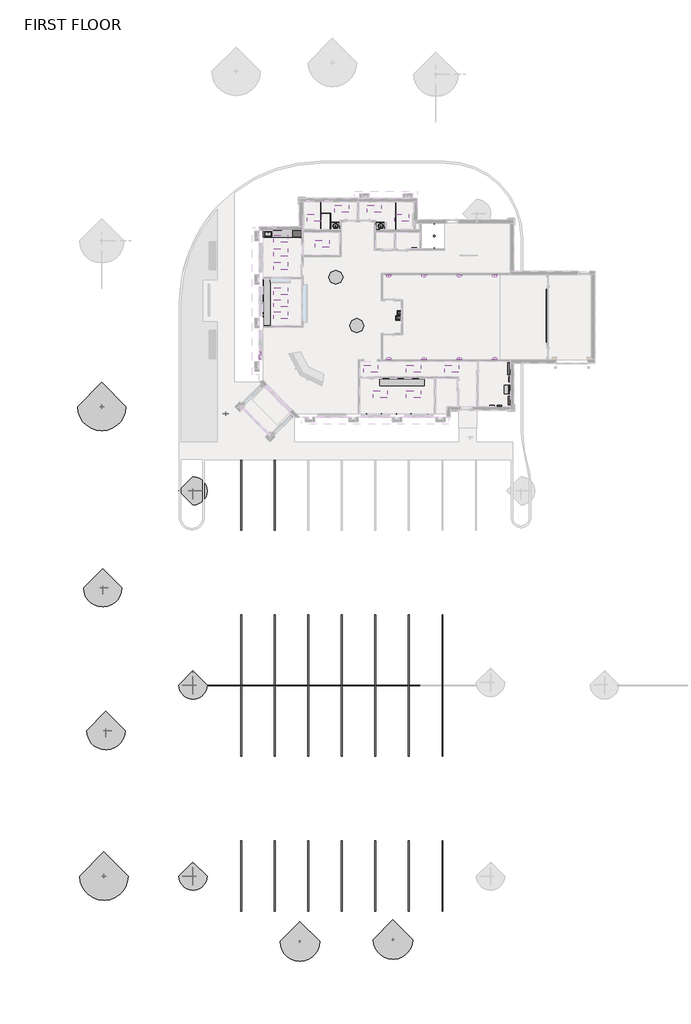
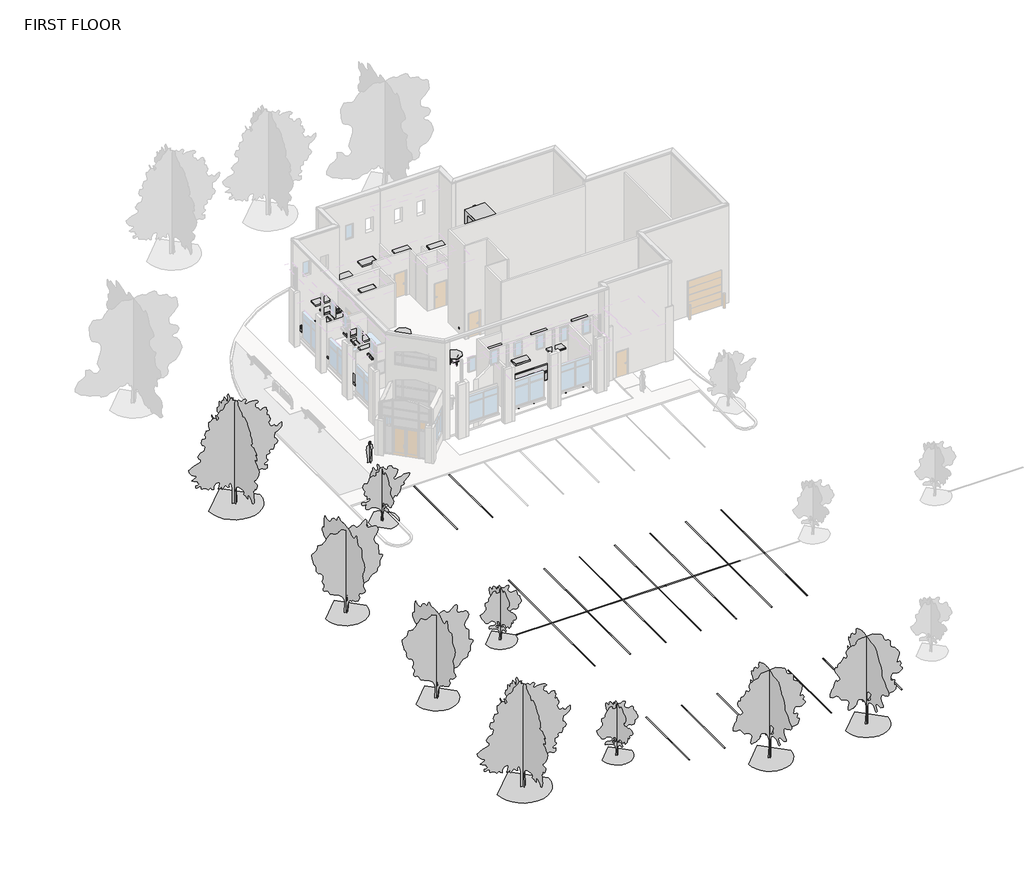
# One storey, part 6 of 7: 35 geographic elements, 30 proxies, 24 light fixtures, 12 furniture elements, 4 flow terminals.
"""IFC4 building model written with IfcOpenShell, lengths in millimetres."""

from ifc_helpers import new_model, si_unit, origin, place, context, project, spatial, transform, mapped, element, save
from components import specialty_equipment_692675cb, proxy_75_kva_46ae6ed2, duplex_receptacle_gfci_10251bba, elevator_electric_2000_lbs_4744baa0, lighting_and_appliance_panelboard_208v_mcb_surface_300_a_4e6e7a5c, lighting_and_appliance_panelboard_208v_mlo_surface_100_a_d3afedde, lighting_and_appliance_panelboard_480v_mlo_surface_225_a_cb251ed6, lighting_and_appliance_panelboard_480v_mlo_surface_400_a_c317ceb7, lighting_and_appliance_panelboard_480v_mlo_surface_60_a_df9055c8, projection_screen_with_parametric_screen_4857_projection_ff3bfefe, rpc_male_28878092, proxy_52aa913c, proxy_b54b38c5, proxy_e74a4aad, proxy_a965dae9, flow_terminal_8a1848b0, flow_terminal_50ef5554, flow_terminal_951b6bfb, furniture_81c1c4d7, furniture_c0b19bce, furniture_e9891702, furniture_2ac01a90, furniture_69c8b165, furniture_e487f748, furniture_dc82221e, pavement_stripe_20_9c478066, pavement_stripe_20_eeeff9bc, rpc_tree_deciduous_honey_locust_25_cc46a1f1, rpc_tree_deciduous_japanese_cherry_15_e499737d, rpc_tree_deciduous_largetooth_aspen_25_f6cd7aa4, rpc_tree_deciduous_red_maple_30_cba750cc, sconce_light_uplight_100w_120v_3f244261, troffer_light_2x4_parabolic_2_x4_2_lamp_120v_ca384779

model = new_model("IFC4")

# Units and contexts
model_context = context("Model", 3, world=origin())
ifc_project = project(units=[si_unit("LENGTHUNIT", "METRE", prefix="MILLI")], contexts=[model_context])

# Site, building, storey
site = spatial("IfcSite", under=ifc_project)
building = spatial("IfcBuilding", under=site)
storey = spatial("IfcBuildingStorey", under=building, Name="FIRST FLOOR", Elevation=30480.0)

# Proxies
placement = place(None, origin())
specialty_equipment_shape = specialty_equipment_692675cb(model_context)
element("IfcBuildingElementProxy", 1, Name="Refridgerator_with_freezer_on_top_198 : Refridgerator_with_freezer_on_top_198", ObjectType="Refridgerator_with_freezer_on_top_198 : Refridgerator_with_freezer_on_top_198", at=placement, inside=storey, context=model_context, shape_type="MappedRepresentation", body=[
    mapped(specialty_equipment_shape, transform((-13951.060253, 9896.6010405, 30480.0), x_axis=(0.0, -1.0000000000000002, 0.0), y_axis=(1.0000000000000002, 0.0, 0.0), z_axis=(0.0, 0.0, 1.0))),
])
proxy_75_kva_shape = proxy_75_kva_46ae6ed2(model_context)
element("IfcBuildingElementProxy", 2, Name="Dry Type Transformer - 480-208Y120 - NEMA Type 2 : 75 kVA", ObjectType="Dry Type Transformer - 480-208Y120 - NEMA Type 2 : 75 kVA", at=placement, inside=storey, context=model_context, shape_type="MappedRepresentation", body=[
    mapped(proxy_75_kva_shape, transform((4431.6488819, -3870.1989595, 30480.0), x_axis=(0.0, -1.0, 0.0), y_axis=(1.0, 0.0, 0.0), z_axis=(0.0, 0.0, 1.0))),
])
duplex_receptacle_gfci_shape = duplex_receptacle_gfci_10251bba(model_context)
element("IfcBuildingElementProxy", 3, Name="Duplex Receptacle : Standard", ObjectType="Duplex Receptacle : Standard", at=placement, inside=storey, context=model_context, shape_type="MappedRepresentation", body=[
    mapped(duplex_receptacle_gfci_shape, transform((-7553.455573, -5952.9989595, 30937.2), x_axis=(-1.0, 0.0, 0.0), y_axis=(0.0, 0.0, 1.0), z_axis=(0.0, 1.0, 0.0))),
])
element("IfcBuildingElementProxy", 4, Name="Duplex Receptacle : Standard", ObjectType="Duplex Receptacle : Standard", at=placement, inside=storey, context=model_context, shape_type="MappedRepresentation", body=[
    mapped(duplex_receptacle_gfci_shape, transform((-6283.455573, -5952.9989595, 30937.2), x_axis=(-1.0, 0.0, 0.0), y_axis=(0.0, 0.0, 1.0), z_axis=(0.0, 1.0, 0.0))),
])
element("IfcBuildingElementProxy", 5, Name="Duplex Receptacle : Standard", ObjectType="Duplex Receptacle : Standard", at=placement, inside=storey, context=model_context, shape_type="MappedRepresentation", body=[
    mapped(duplex_receptacle_gfci_shape, transform((-4972.180573, -5952.9989595, 30937.2), x_axis=(-1.0, 0.0, 0.0), y_axis=(0.0, 0.0, 1.0), z_axis=(0.0, 1.0, 0.0))),
])
element("IfcBuildingElementProxy", 6, Name="Duplex Receptacle : Standard", ObjectType="Duplex Receptacle : Standard", at=placement, inside=storey, context=model_context, shape_type="MappedRepresentation", body=[
    mapped(duplex_receptacle_gfci_shape, transform((-3718.055573, -5952.9989595, 30937.2), x_axis=(-1.0, 0.0, 0.0), y_axis=(0.0, 0.0, 1.0), z_axis=(0.0, 1.0, 0.0))),
])
element("IfcBuildingElementProxy", 7, Name="Duplex Receptacle : Standard", ObjectType="Duplex Receptacle : Standard", at=placement, inside=storey, context=model_context, shape_type="MappedRepresentation", body=[
    mapped(duplex_receptacle_gfci_shape, transform((-2295.660653, -5952.9989595, 30937.2), x_axis=(-1.0, 0.0, 0.0), y_axis=(0.0, 0.0, 1.0), z_axis=(0.0, 1.0, 0.0))),
])
element("IfcBuildingElementProxy", 8, Name="Duplex Receptacle : Standard", ObjectType="Duplex Receptacle : Standard", at=placement, inside=storey, context=model_context, shape_type="MappedRepresentation", body=[
    mapped(duplex_receptacle_gfci_shape, transform((-1736.860653, -4403.5989595, 30937.2), x_axis=(0.0, -1.0, 0.0), y_axis=(0.0, 0.0, 1.0), z_axis=(-1.0, 0.0, 0.0))),
])
element("IfcBuildingElementProxy", 9, Name="Duplex Receptacle : Standard", ObjectType="Duplex Receptacle : Standard", at=placement, inside=storey, context=model_context, shape_type="MappedRepresentation", body=[
    mapped(duplex_receptacle_gfci_shape, transform((-3210.060653, -2917.6989595, 30937.2), x_axis=(1.0, 0.0, 0.0), y_axis=(0.0, 0.0, 1.0), z_axis=(0.0, -1.0, 0.0))),
])
element("IfcBuildingElementProxy", 10, Name="Duplex Receptacle : Standard", ObjectType="Duplex Receptacle : Standard", at=placement, inside=storey, context=model_context, shape_type="MappedRepresentation", body=[
    mapped(duplex_receptacle_gfci_shape, transform((-5772.260253, -2917.6989595, 30937.2), x_axis=(1.0, 0.0, 0.0), y_axis=(0.0, 0.0, 1.0), z_axis=(0.0, -1.0, 0.0))),
])
element("IfcBuildingElementProxy", 11, Name="Duplex Receptacle : Standard", ObjectType="Duplex Receptacle : Standard", at=placement, inside=storey, context=model_context, shape_type="MappedRepresentation", body=[
    mapped(duplex_receptacle_gfci_shape, transform((-6302.485253, 422.4010405, 30937.2), x_axis=(0.0, -1.0, 0.0), y_axis=(0.0, 0.0, 1.0), z_axis=(-1.0, 0.0, 0.0))),
])
element("IfcBuildingElementProxy", 12, Name="Duplex Receptacle : Standard", ObjectType="Duplex Receptacle : Standard", at=placement, inside=storey, context=model_context, shape_type="MappedRepresentation", body=[
    mapped(duplex_receptacle_gfci_shape, transform((-6302.485253, 4664.2010405, 30937.2), x_axis=(0.0, -1.0, 0.0), y_axis=(0.0, 0.0, 1.0), z_axis=(-1.0, 0.0, 0.0))),
])
element("IfcBuildingElementProxy", 13, Name="Duplex Receptacle : Standard", ObjectType="Duplex Receptacle : Standard", at=placement, inside=storey, context=model_context, shape_type="MappedRepresentation", body=[
    mapped(duplex_receptacle_gfci_shape, transform((-10830.035253, 7616.9510405, 30937.2), x_axis=(1.0, 0.0, 0.0), y_axis=(0.0, 0.0, 1.0), z_axis=(0.0, -1.0, 0.0))),
])
element("IfcBuildingElementProxy", 14, Name="Duplex Receptacle : Standard", ObjectType="Duplex Receptacle : Standard", at=placement, inside=storey, context=model_context, shape_type="MappedRepresentation", body=[
    mapped(duplex_receptacle_gfci_shape, transform((-13697.060253, 1644.7760405, 30937.2), x_axis=(-1.0, 0.0, 0.0), y_axis=(0.0, 0.0, 1.0), z_axis=(0.0, 1.0, 0.0))),
])
element("IfcBuildingElementProxy", 15, Name="Duplex Receptacle : Standard", ObjectType="Duplex Receptacle : Standard", at=placement, inside=storey, context=model_context, shape_type="MappedRepresentation", body=[
    mapped(duplex_receptacle_gfci_shape, transform((-16113.235253, 1644.7760405, 30937.2), x_axis=(1.0, 0.0, 0.0), y_axis=(0.0, 0.0, 1.0), z_axis=(0.0, -1.0, 0.0))),
])
element("IfcBuildingElementProxy", 16, Name="Duplex Receptacle : Standard", ObjectType="Duplex Receptacle : Standard", at=placement, inside=storey, context=model_context, shape_type="MappedRepresentation", body=[
    mapped(duplex_receptacle_gfci_shape, transform((-16500.585253, 3546.5908805, 30937.2), x_axis=(0.0, 1.0, 0.0), y_axis=(0.0, 0.0, 1.0), z_axis=(1.0, 0.0, 0.0))),
])
element("IfcBuildingElementProxy", 17, Name="Duplex Receptacle : Standard", ObjectType="Duplex Receptacle : Standard", at=placement, inside=storey, context=model_context, shape_type="MappedRepresentation", body=[
    mapped(duplex_receptacle_gfci_shape, transform((-13468.460253, 5708.7760405, 30937.2), x_axis=(1.0, 0.0, 0.0), y_axis=(0.0, 0.0, 1.0), z_axis=(0.0, -1.0, 0.0))),
])
elevator_electric_2000_lbs_shape = elevator_electric_2000_lbs_4744baa0(model_context)
element("IfcBuildingElementProxy", 18, Name="Elevator-Electric : 2000 lbs", ObjectType="Elevator-Electric : 2000 lbs", at=placement, inside=storey, context=model_context, shape_type="MappedRepresentation", body=[
    mapped(elevator_electric_2000_lbs_shape, transform((-1688.8570793, 9381.154044, 30480.0), x_axis=(0.0, 1.0, 0.0), y_axis=(-1.0, 0.0, 0.0), z_axis=(0.0, 0.0, 1.0))),
])
lighting_and_appliance_panelboard_208v_mcb_surface_300_a_shape = lighting_and_appliance_panelboard_208v_mcb_surface_300_a_4e6e7a5c(model_context)
element("IfcBuildingElementProxy", 19, Name="Lighting and Appliance Panelboard - 208V MCB - Surface : 300 A", ObjectType="Lighting and Appliance Panelboard - 208V MCB - Surface : 300 A", at=placement, inside=storey, context=model_context, shape_type="MappedRepresentation", body=[
    mapped(lighting_and_appliance_panelboard_208v_mcb_surface_300_a_shape, transform((4816.364747, -4714.7394889, 31935.3056703), x_axis=(0.0, -1.0, 0.0), y_axis=(0.0, 0.0, 1.0), z_axis=(-1.0, 0.0, 0.0))),
])
lighting_and_appliance_panelboard_208v_mlo_surface_100_a_shape = lighting_and_appliance_panelboard_208v_mlo_surface_100_a_d3afedde(model_context)
element("IfcBuildingElementProxy", 20, Name="Lighting and Appliance Panelboard - 208V MLO - Surface : 100 A", ObjectType="Lighting and Appliance Panelboard - 208V MLO - Surface : 100 A", at=placement, inside=storey, context=model_context, shape_type="MappedRepresentation", body=[
    mapped(lighting_and_appliance_panelboard_208v_mlo_surface_100_a_shape, transform((3898.789747, -5343.3989595, 31699.2), x_axis=(-1.0, 0.0, 0.0), y_axis=(0.0, 0.0, 1.0), z_axis=(0.0, 1.0, 0.0))),
])
element("IfcBuildingElementProxy", 21, Name="Lighting and Appliance Panelboard - 208V MLO - Surface : 100 A", ObjectType="Lighting and Appliance Panelboard - 208V MLO - Surface : 100 A", at=placement, inside=storey, context=model_context, shape_type="MappedRepresentation", body=[
    mapped(lighting_and_appliance_panelboard_208v_mlo_surface_100_a_shape, transform((3238.389747, -5343.3989595, 31699.2), x_axis=(-1.0, 0.0, 0.0), y_axis=(0.0, 0.0, 1.0), z_axis=(0.0, 1.0, 0.0))),
])
lighting_and_appliance_panelboard_480v_mlo_surface_225_a_shape = lighting_and_appliance_panelboard_480v_mlo_surface_225_a_cb251ed6(model_context)
element("IfcBuildingElementProxy", 22, Name="Lighting and Appliance Panelboard - 480V MLO - Surface : 225 A", ObjectType="Lighting and Appliance Panelboard - 480V MLO - Surface : 225 A", at=placement, inside=storey, context=model_context, shape_type="MappedRepresentation", body=[
    mapped(lighting_and_appliance_panelboard_480v_mlo_surface_225_a_shape, transform((4816.364747, -2981.1989595, 31325.3274047), x_axis=(0.0, -1.0, 0.0), y_axis=(0.0, 0.0, 1.0), z_axis=(-1.0, 0.0, 0.0))),
])
lighting_and_appliance_panelboard_480v_mlo_surface_400_a_shape = lighting_and_appliance_panelboard_480v_mlo_surface_400_a_c317ceb7(model_context)
element("IfcBuildingElementProxy", 23, Name="Lighting and Appliance Panelboard - 480V MLO - Surface : 400 A", ObjectType="Lighting and Appliance Panelboard - 480V MLO - Surface : 400 A", at=placement, inside=storey, context=model_context, shape_type="MappedRepresentation", body=[
    mapped(lighting_and_appliance_panelboard_480v_mlo_surface_400_a_shape, transform((4816.364747, -2069.9739595, 31325.3274047), x_axis=(0.0, -1.0, 0.0), y_axis=(0.0, 0.0, 1.0), z_axis=(-1.0, 0.0, 0.0))),
])
lighting_and_appliance_panelboard_480v_mlo_surface_60_a_shape = lighting_and_appliance_panelboard_480v_mlo_surface_60_a_df9055c8(model_context)
element("IfcBuildingElementProxy", 24, Name="Lighting and Appliance Panelboard - 480V MLO - Surface : 60 A", ObjectType="Lighting and Appliance Panelboard - 480V MLO - Surface : 60 A", at=placement, inside=storey, context=model_context, shape_type="MappedRepresentation", body=[
    mapped(lighting_and_appliance_panelboard_480v_mlo_surface_60_a_shape, transform((-3464.035253, 8271.0010405, 31325.3274047), x_axis=(-1.0, 0.0, 0.0), y_axis=(0.0, 0.0, 1.0), z_axis=(0.0, 1.0, 0.0))),
])
projection_screen_with_parametric_screen_4857_projection_shape = projection_screen_with_parametric_screen_4857_projection_ff3bfefe(model_context)
element("IfcBuildingElementProxy", 25, Name="Projection_Screen_with_parametric_screen_4857 : Projection_Screen_with_parametric_screen_4857", ObjectType="Projection_Screen_with_parametric_screen_4857 : Projection_Screen_with_parametric_screen_4857", at=placement, inside=storey, context=model_context, shape_type="MappedRepresentation", body=[
    mapped(projection_screen_with_parametric_screen_4857_projection_shape, transform((7889.4315444, 2505.2010405, 30632.4), x_axis=(0.0, 1.0, 0.0), y_axis=(-1.0, 0.0, 0.0), z_axis=(0.0, 0.0, 1.0))),
])
rpc_male_shape = rpc_male_28878092(model_context)
element("IfcBuildingElementProxy", 26, Name="RPC Male : Dwayne", ObjectType="RPC Male : Dwayne", at=placement, inside=storey, context=model_context, shape_type="MappedRepresentation", body=[
    mapped(rpc_male_shape, transform((-19742.3830365, -5937.1239595, 30480.0), x_axis=(1.0, 0.0, 0.0), y_axis=(0.0, 1.0, 0.0), z_axis=(0.0, 0.0, 1.0))),
])
proxy_shape = proxy_52aa913c(model_context)
element("IfcBuildingElementProxy", 27, Name="Stone Sill : 2' x 8\" x 3 5/8\" Deep", ObjectType="Stone Sill : 2' x 8\" x 3 5/8\" Deep", at=placement, inside=storey, context=model_context, shape_type="MappedRepresentation", body=[
    mapped(proxy_shape, transform((-16673.80834, -1538.0040395, 33419.5320312), x_axis=(0.0, 1.0, 0.0), y_axis=(-1.0, 0.0, 0.0), z_axis=(0.0, 0.0, 1.0))),
])
proxy_2_shape = proxy_b54b38c5(model_context)
element("IfcBuildingElementProxy", 28, Name="Toilet Stall-Accessible-Side2-3D : 60\" x 96\" Clear", ObjectType="Toilet Stall-Accessible-Side2-3D : 60\" x 96\" Clear", at=placement, inside=storey, context=model_context, shape_type="MappedRepresentation", body=[
    mapped(proxy_2_shape, transform((-12203.1320992, 9820.4010405, 30480.0), x_axis=(-1.0, 0.0, 0.0), y_axis=(0.0, -1.0, 0.0), z_axis=(0.0, 0.0, 1.0))),
])
proxy_3_shape = proxy_e74a4aad(model_context)
element("IfcBuildingElementProxy", 29, Name="Toilet Stall-Accessible-Side2-3D : 60\" x 96\" Clear", ObjectType="Toilet Stall-Accessible-Side2-3D : 60\" x 96\" Clear", at=placement, inside=storey, context=model_context, shape_type="MappedRepresentation", body=[
    mapped(proxy_3_shape, transform((-4376.9384068, 9820.4010405, 30480.0), x_axis=(1.0, 0.0, 0.0), y_axis=(0.0, 1.0, 0.0), z_axis=(0.0, 0.0, 1.0))),
])
proxy_4_shape = proxy_a965dae9(model_context)
element("IfcBuildingElementProxy", 30, Name="Toilet Stall-Braced-3D : 32\" x 56\" Clear", ObjectType="Toilet Stall-Braced-3D : 32\" x 56\" Clear", at=placement, inside=storey, context=model_context, shape_type="MappedRepresentation", body=[
    mapped(proxy_4_shape, transform((-10704.5320992, 9820.4010405, 30480.0), x_axis=(-1.0, 0.0, 0.0), y_axis=(0.0, -1.0, 0.0), z_axis=(0.0, 0.0, 1.0))),
])

# Flow terminals
flow_terminal_shape = flow_terminal_8a1848b0(model_context)
element("IfcFlowTerminal", 31, ObjectType="Drinking Fountain-Hi-Lo-3D : Drinking Fountain-Hi-Lo-3D", at=placement, inside=storey, context=model_context, shape_type="MappedRepresentation", body=[
    mapped(flow_terminal_shape, transform((-4502.260253, 2508.9574863, 30480.0), x_axis=(0.0, -1.0, 0.0), y_axis=(1.0, 0.0, 0.0), z_axis=(0.0, 0.0, 1.0))),
])
flow_terminal_2_shape = flow_terminal_50ef5554(model_context)
element("IfcFlowTerminal", 32, ObjectType="Sink Kitchen-Single : 24\" x 21\"", at=placement, inside=storey, context=model_context, shape_type="MappedRepresentation", body=[
    mapped(flow_terminal_2_shape, transform((-16090.8244936, 9598.9501594, 30480.0), x_axis=(1.0000000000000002, 0.0, 0.0), y_axis=(0.0, 1.0000000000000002, 0.0), z_axis=(0.0, 0.0, 1.0))),
])
flow_terminal_3_shape = flow_terminal_951b6bfb(model_context)
element("IfcFlowTerminal", 33, ObjectType="Sink Vanity-Round : 19\" x 19\"", at=placement, inside=storey, context=model_context, shape_type="MappedRepresentation", body=[
    mapped(flow_terminal_3_shape, transform((-10355.1808265, 10338.1331785, 30480.0), x_axis=(1.0000000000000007, 0.0, 0.0), y_axis=(0.0, 1.0000000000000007, 0.0), z_axis=(0.0, 0.0, 1.0))),
])
element("IfcFlowTerminal", 34, ObjectType="Sink Vanity-Round : 19\" x 19\"", at=placement, inside=storey, context=model_context, shape_type="MappedRepresentation", body=[
    mapped(flow_terminal_3_shape, transform((-6453.1058265, 10338.1331785, 30480.0), x_axis=(1.0000000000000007, 0.0, 0.0), y_axis=(0.0, 1.0000000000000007, 0.0), z_axis=(0.0, 0.0, 1.0))),
])

# Furniture
furniture_shape = furniture_81c1c4d7(model_context)
element("IfcFurniture", 35, ObjectType="Base Cabinet-Double Door & 2 Drawer : 30\"", at=placement, inside=storey, context=model_context, shape_type="MappedRepresentation", body=[
    mapped(furniture_shape, transform((-4484.8381257, -2898.6489595, 30480.0), x_axis=(-1.0, 0.0, 0.0), y_axis=(0.0, -1.0, 0.0), z_axis=(0.0, 0.0, 1.0))),
])
element("IfcFurniture", 36, ObjectType="Base Cabinet-Double Door & 2 Drawer : 30\"", at=placement, inside=storey, context=model_context, shape_type="MappedRepresentation", body=[
    mapped(furniture_shape, transform((-2960.8381257, -2898.6489595, 30480.0), x_axis=(-1.0, 0.0, 0.0), y_axis=(0.0, -1.0, 0.0), z_axis=(0.0, 0.0, 1.0))),
])
element("IfcFurniture", 37, ObjectType="Base Cabinet-Double Door & 2 Drawer : 30\"", at=placement, inside=storey, context=model_context, shape_type="MappedRepresentation", body=[
    mapped(furniture_shape, transform((-3722.8381257, -2898.6489595, 30480.0), x_axis=(-1.0, 0.0, 0.0), y_axis=(0.0, -1.0, 0.0), z_axis=(0.0, 0.0, 1.0))),
])
furniture_2_shape = furniture_c0b19bce(model_context)
element("IfcFurniture", 38, ObjectType="Counter Top : 24\" Depth", at=placement, inside=storey, context=model_context, shape_type="MappedRepresentation", body=[
    mapped(furniture_2_shape, transform((-15319.1729579, 9906.1260405, 30480.0), x_axis=(1.0000000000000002, 0.0, 0.0), y_axis=(0.0, 1.0000000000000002, 0.0), z_axis=(0.0, 0.0, 1.0))),
])
furniture_3_shape = furniture_e9891702(model_context)
element("IfcFurniture", 39, ObjectType="Counter Top : 24\" Depth", at=placement, inside=storey, context=model_context, shape_type="MappedRepresentation", body=[
    mapped(furniture_3_shape, transform((-16519.635253, 2845.2383356, 30480.0), x_axis=(0.0, 1.0, 0.0), y_axis=(-1.0, 0.0, 0.0), z_axis=(0.0, 0.0, 1.0))),
])
furniture_4_shape = furniture_2ac01a90(model_context)
element("IfcFurniture", 40, ObjectType="Counter Top : 24\" Depth", at=placement, inside=storey, context=model_context, shape_type="MappedRepresentation", body=[
    mapped(furniture_4_shape, transform((-3777.6700444, -2898.6489595, 30480.0), x_axis=(-1.0, 0.0, 0.0), y_axis=(0.0, -1.0, 0.0), z_axis=(0.0, 0.0, 1.0))),
])
furniture_5_shape = furniture_69c8b165(model_context)
element("IfcFurniture", 41, ObjectType="Table-Dining Round w Chairs : 48\" Diameter", at=placement, inside=storey, context=model_context, shape_type="MappedRepresentation", body=[
    mapped(furniture_5_shape, transform((-10423.332589, 5890.0157928, 30480.0), x_axis=(0.7071067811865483, 0.7071067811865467, 0.0), y_axis=(-0.7071067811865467, 0.7071067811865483, 0.0), z_axis=(0.0, 0.0, 1.0))),
])
element("IfcFurniture", 42, ObjectType="Table-Dining Round w Chairs : 48\" Diameter", at=placement, inside=storey, context=model_context, shape_type="MappedRepresentation", body=[
    mapped(furniture_5_shape, transform((-8640.1284495, 1714.8806328, 30480.0), x_axis=(0.7071067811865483, 0.7071067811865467, 0.0), y_axis=(-0.7071067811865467, 0.7071067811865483, 0.0), z_axis=(0.0, 0.0, 1.0))),
])
furniture_6_shape = furniture_e487f748(model_context)
element("IfcFurniture", 43, ObjectType="Vanity Cabinet-Double Door Sink Unit : 30\"", at=placement, inside=storey, context=model_context, shape_type="MappedRepresentation", body=[
    mapped(furniture_6_shape, transform((-10277.2667909, 9947.2228342, 30480.0), x_axis=(1.0000000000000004, 0.0, 0.0), y_axis=(0.0, 1.0000000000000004, 0.0), z_axis=(0.0, 0.0, 1.0))),
])
element("IfcFurniture", 44, ObjectType="Vanity Cabinet-Double Door Sink Unit : 30\"", at=placement, inside=storey, context=model_context, shape_type="MappedRepresentation", body=[
    mapped(furniture_6_shape, transform((-6375.1917909, 9947.2228342, 30480.0), x_axis=(1.0000000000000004, 0.0, 0.0), y_axis=(0.0, 1.0000000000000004, 0.0), z_axis=(0.0, 0.0, 1.0))),
])
furniture_7_shape = furniture_dc82221e(model_context)
element("IfcFurniture", 45, ObjectType="Vanity Counter Top w Round Sink Hole : 24\" Depth", at=placement, inside=storey, context=model_context, shape_type="MappedRepresentation", body=[
    mapped(furniture_7_shape, transform((-9350.1729579, 9912.4760405, 30480.0), x_axis=(1.0000000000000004, 0.0, 0.0), y_axis=(0.0, 1.0000000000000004, 0.0), z_axis=(0.0, 0.0, 1.0))),
])
element("IfcFurniture", 46, ObjectType="Vanity Counter Top w Round Sink Hole : 24\" Depth", at=placement, inside=storey, context=model_context, shape_type="MappedRepresentation", body=[
    mapped(furniture_7_shape, transform((-5448.0979579, 9912.4760405, 30480.0), x_axis=(1.0000000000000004, 0.0, 0.0), y_axis=(0.0, 1.0000000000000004, 0.0), z_axis=(0.0, 0.0, 1.0))),
])

# Geographic elements
pavement_stripe_20_shape = pavement_stripe_20_9c478066(model_context)
element("IfcGeographicElement", 47, ObjectType="Pavement Stripe : 20'", at=placement, inside=storey, context=model_context, shape_type="MappedRepresentation", body=[
    mapped(pavement_stripe_20_shape, transform((-19664.4222217, -10778.9989595, 30327.6), x_axis=(1.0, 0.0, 0.0), y_axis=(0.0, 1.0, 0.0), z_axis=(0.0, 0.0, 1.0))),
])
element("IfcGeographicElement", 48, ObjectType="Pavement Stripe : 20'", at=placement, inside=storey, context=model_context, shape_type="MappedRepresentation", body=[
    mapped(pavement_stripe_20_shape, transform((-16768.826961, -10778.9989595, 30327.6), x_axis=(1.0, 0.0, 0.0), y_axis=(0.0, 1.0, 0.0), z_axis=(0.0, 0.0, 1.0))),
])
element("IfcGeographicElement", 49, ObjectType="Pavement Stripe : 20'", at=placement, inside=storey, context=model_context, shape_type="MappedRepresentation", body=[
    mapped(pavement_stripe_20_shape, transform((-19664.4222217, -30286.1989595, 30327.6), x_axis=(1.0, 0.0, 0.0), y_axis=(0.0, 1.0, 0.0), z_axis=(0.0, 0.0, 1.0))),
])
element("IfcGeographicElement", 50, ObjectType="Pavement Stripe : 20'", at=placement, inside=storey, context=model_context, shape_type="MappedRepresentation", body=[
    mapped(pavement_stripe_20_shape, transform((-16768.826961, -30286.1989595, 30327.6), x_axis=(1.0, 0.0, 0.0), y_axis=(0.0, 1.0, 0.0), z_axis=(0.0, 0.0, 1.0))),
])
element("IfcGeographicElement", 51, ObjectType="Pavement Stripe : 20'", at=placement, inside=storey, context=model_context, shape_type="MappedRepresentation", body=[
    mapped(pavement_stripe_20_shape, transform((-13873.2269603, -30286.1989595, 30327.6), x_axis=(1.0, 0.0, 0.0), y_axis=(0.0, 1.0, 0.0), z_axis=(0.0, 0.0, 1.0))),
])
element("IfcGeographicElement", 52, ObjectType="Pavement Stripe : 20'", at=placement, inside=storey, context=model_context, shape_type="MappedRepresentation", body=[
    mapped(pavement_stripe_20_shape, transform((-10977.6269597, -30286.1989595, 30327.6), x_axis=(1.0, 0.0, 0.0), y_axis=(0.0, 1.0, 0.0), z_axis=(0.0, 0.0, 1.0))),
])
element("IfcGeographicElement", 53, ObjectType="Pavement Stripe : 20'", at=placement, inside=storey, context=model_context, shape_type="MappedRepresentation", body=[
    mapped(pavement_stripe_20_shape, transform((-8082.026959, -30286.1989595, 30327.6), x_axis=(1.0, 0.0, 0.0), y_axis=(0.0, 1.0, 0.0), z_axis=(0.0, 0.0, 1.0))),
])
element("IfcGeographicElement", 54, ObjectType="Pavement Stripe : 20'", at=placement, inside=storey, context=model_context, shape_type="MappedRepresentation", body=[
    mapped(pavement_stripe_20_shape, transform((-5186.4269584, -30286.1989595, 30327.6), x_axis=(1.0, 0.0, 0.0), y_axis=(0.0, 1.0, 0.0), z_axis=(0.0, 0.0, 1.0))),
])
element("IfcGeographicElement", 55, ObjectType="Pavement Stripe : 20'", at=placement, inside=storey, context=model_context, shape_type="MappedRepresentation", body=[
    mapped(pavement_stripe_20_shape, transform((-2290.8269578, -30286.1989595, 30327.6), x_axis=(1.0, 0.0, 0.0), y_axis=(0.0, 1.0, 0.0), z_axis=(0.0, 0.0, 1.0))),
])
pavement_stripe_20_2_shape = pavement_stripe_20_eeeff9bc(model_context)
element("IfcGeographicElement", 56, ObjectType="Pavement Stripe : 20'", at=placement, inside=storey, context=model_context, shape_type="MappedRepresentation", body=[
    mapped(pavement_stripe_20_2_shape, transform((-19664.3859529, -28558.4691789, 30327.6), x_axis=(0.9999999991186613, -4.198425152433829e-05, 0.0), y_axis=(4.198425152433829e-05, 0.9999999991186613, 0.0), z_axis=(0.0, 0.0, 1.0))),
])
element("IfcGeographicElement", 57, ObjectType="Pavement Stripe : 20'", at=placement, inside=storey, context=model_context, shape_type="MappedRepresentation", body=[
    mapped(pavement_stripe_20_2_shape, transform((-16768.7906948, -28558.5907483, 30327.6), x_axis=(0.9999999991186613, -4.198425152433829e-05, 0.0), y_axis=(4.198425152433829e-05, 0.9999999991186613, 0.0), z_axis=(0.0, 0.0, 1.0))),
])
element("IfcGeographicElement", 58, ObjectType="Pavement Stripe : 20'", at=placement, inside=storey, context=model_context, shape_type="MappedRepresentation", body=[
    mapped(pavement_stripe_20_2_shape, transform((-13873.1906967, -28558.7123179, 30327.6), x_axis=(0.9999999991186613, -4.198425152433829e-05, 0.0), y_axis=(4.198425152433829e-05, 0.9999999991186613, 0.0), z_axis=(0.0, 0.0, 1.0))),
])
element("IfcGeographicElement", 59, ObjectType="Pavement Stripe : 20'", at=placement, inside=storey, context=model_context, shape_type="MappedRepresentation", body=[
    mapped(pavement_stripe_20_2_shape, transform((-10977.5906986, -28558.8338875, 30327.6), x_axis=(0.9999999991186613, -4.198425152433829e-05, 0.0), y_axis=(4.198425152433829e-05, 0.9999999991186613, 0.0), z_axis=(0.0, 0.0, 1.0))),
])
element("IfcGeographicElement", 60, ObjectType="Pavement Stripe : 20'", at=placement, inside=storey, context=model_context, shape_type="MappedRepresentation", body=[
    mapped(pavement_stripe_20_2_shape, transform((-8081.9907005, -28558.9554571, 30327.6), x_axis=(0.9999999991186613, -4.198425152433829e-05, 0.0), y_axis=(4.198425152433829e-05, 0.9999999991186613, 0.0), z_axis=(0.0, 0.0, 1.0))),
])
element("IfcGeographicElement", 61, ObjectType="Pavement Stripe : 20'", at=placement, inside=storey, context=model_context, shape_type="MappedRepresentation", body=[
    mapped(pavement_stripe_20_2_shape, transform((-5186.3907024, -28559.0770267, 30327.6), x_axis=(0.9999999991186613, -4.198425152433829e-05, 0.0), y_axis=(4.198425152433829e-05, 0.9999999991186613, 0.0), z_axis=(0.0, 0.0, 1.0))),
])
element("IfcGeographicElement", 62, ObjectType="Pavement Stripe : 20'", at=placement, inside=storey, context=model_context, shape_type="MappedRepresentation", body=[
    mapped(pavement_stripe_20_2_shape, transform((-2290.7907044, -28559.1985963, 30327.6), x_axis=(0.9999999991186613, -4.198425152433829e-05, 0.0), y_axis=(4.198425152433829e-05, 0.9999999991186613, 0.0), z_axis=(0.0, 0.0, 1.0))),
])
element("IfcGeographicElement", 63, ObjectType="Pavement Stripe : 20'", at=placement, inside=storey, context=model_context, shape_type="MappedRepresentation", body=[
    mapped(pavement_stripe_20_2_shape, transform((-16058.7215596, -30687.3718083, 30327.6), x_axis=(2.099212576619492e-05, 0.9999999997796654, 0.0), y_axis=(-0.9999999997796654, 2.099212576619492e-05, 0.0), z_axis=(0.0, 0.0, 1.0))),
])
element("IfcGeographicElement", 64, ObjectType="Pavement Stripe : 20'", at=placement, inside=storey, context=model_context, shape_type="MappedRepresentation", body=[
    mapped(pavement_stripe_20_2_shape, transform((-9962.7215596, -30687.3718083, 30327.6), x_axis=(2.099212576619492e-05, 0.9999999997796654, 0.0), y_axis=(-0.9999999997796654, 2.099212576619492e-05, 0.0), z_axis=(0.0, 0.0, 1.0))),
])
element("IfcGeographicElement", 65, ObjectType="Pavement Stripe : 20'", at=placement, inside=storey, context=model_context, shape_type="MappedRepresentation", body=[
    mapped(pavement_stripe_20_2_shape, transform((-3866.7215596, -30687.3718083, 30327.6), x_axis=(2.099212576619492e-05, 0.9999999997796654, 0.0), y_axis=(-0.9999999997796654, 2.099212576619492e-05, 0.0), z_axis=(0.0, 0.0, 1.0))),
])
element("IfcGeographicElement", 66, ObjectType="Pavement Stripe : 20'", at=placement, inside=storey, context=model_context, shape_type="MappedRepresentation", body=[
    mapped(pavement_stripe_20_2_shape, transform((-19664.3859529, -48070.1606117, 30327.6), x_axis=(0.9999999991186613, -4.198425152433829e-05, 0.0), y_axis=(4.198425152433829e-05, 0.9999999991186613, 0.0), z_axis=(0.0, 0.0, 1.0))),
])
element("IfcGeographicElement", 67, ObjectType="Pavement Stripe : 20'", at=placement, inside=storey, context=model_context, shape_type="MappedRepresentation", body=[
    mapped(pavement_stripe_20_2_shape, transform((-16768.7906948, -48070.2821811, 30327.6), x_axis=(0.9999999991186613, -4.198425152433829e-05, 0.0), y_axis=(4.198425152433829e-05, 0.9999999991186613, 0.0), z_axis=(0.0, 0.0, 1.0))),
])
element("IfcGeographicElement", 68, ObjectType="Pavement Stripe : 20'", at=placement, inside=storey, context=model_context, shape_type="MappedRepresentation", body=[
    mapped(pavement_stripe_20_2_shape, transform((-13873.1906967, -48070.4037507, 30327.6), x_axis=(0.9999999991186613, -4.198425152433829e-05, 0.0), y_axis=(4.198425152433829e-05, 0.9999999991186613, 0.0), z_axis=(0.0, 0.0, 1.0))),
])
element("IfcGeographicElement", 69, ObjectType="Pavement Stripe : 20'", at=placement, inside=storey, context=model_context, shape_type="MappedRepresentation", body=[
    mapped(pavement_stripe_20_2_shape, transform((-10977.5906986, -48070.5253203, 30327.6), x_axis=(0.9999999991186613, -4.198425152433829e-05, 0.0), y_axis=(4.198425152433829e-05, 0.9999999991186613, 0.0), z_axis=(0.0, 0.0, 1.0))),
])
element("IfcGeographicElement", 70, ObjectType="Pavement Stripe : 20'", at=placement, inside=storey, context=model_context, shape_type="MappedRepresentation", body=[
    mapped(pavement_stripe_20_2_shape, transform((-8081.9907005, -48070.6468899, 30327.6), x_axis=(0.9999999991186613, -4.198425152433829e-05, 0.0), y_axis=(4.198425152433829e-05, 0.9999999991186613, 0.0), z_axis=(0.0, 0.0, 1.0))),
])
element("IfcGeographicElement", 71, ObjectType="Pavement Stripe : 20'", at=placement, inside=storey, context=model_context, shape_type="MappedRepresentation", body=[
    mapped(pavement_stripe_20_2_shape, transform((-5186.3907024, -48070.7684595, 30327.6), x_axis=(0.9999999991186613, -4.198425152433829e-05, 0.0), y_axis=(4.198425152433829e-05, 0.9999999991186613, 0.0), z_axis=(0.0, 0.0, 1.0))),
])
element("IfcGeographicElement", 72, ObjectType="Pavement Stripe : 20'", at=placement, inside=storey, context=model_context, shape_type="MappedRepresentation", body=[
    mapped(pavement_stripe_20_2_shape, transform((-2290.7907044, -48070.8900291, 30327.6), x_axis=(0.9999999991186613, -4.198425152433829e-05, 0.0), y_axis=(4.198425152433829e-05, 0.9999999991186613, 0.0), z_axis=(0.0, 0.0, 1.0))),
])
rpc_tree_deciduous_honey_locust_25_shape = rpc_tree_deciduous_honey_locust_25_cc46a1f1(model_context)
element("IfcGeographicElement", 73, ObjectType="RPC Tree - Deciduous : Honey Locust - 25'", at=placement, inside=storey, context=model_context, shape_type="MappedRepresentation", body=[
    mapped(rpc_tree_deciduous_honey_locust_25_shape, transform((-30358.2420712, -20976.8056808, 30327.6), x_axis=(1.0, 0.0, 0.0), y_axis=(0.0, 1.0, 0.0), z_axis=(0.0, 0.0, 1.0))),
])
element("IfcGeographicElement", 74, ObjectType="RPC Tree - Deciduous : Honey Locust - 25'", at=placement, inside=storey, context=model_context, shape_type="MappedRepresentation", body=[
    mapped(rpc_tree_deciduous_honey_locust_25_shape, transform((-30077.3645806, -33306.1168096, 30327.6), x_axis=(1.0, 0.0, 0.0), y_axis=(0.0, 1.0, 0.0), z_axis=(0.0, 0.0, 1.0))),
])
rpc_tree_deciduous_japanese_cherry_15_shape = rpc_tree_deciduous_japanese_cherry_15_e499737d(model_context)
element("IfcGeographicElement", 75, ObjectType="RPC Tree - Deciduous : Japanese Cherry - 15'", at=placement, inside=storey, context=model_context, shape_type="MappedRepresentation", body=[
    mapped(rpc_tree_deciduous_japanese_cherry_15_shape, transform((-22565.9256988, -29379.2787009, 30327.6), x_axis=(1.0, 0.0, 0.0), y_axis=(0.0, 1.0, 0.0), z_axis=(0.0, 0.0, 1.0))),
])
element("IfcGeographicElement", 76, ObjectType="RPC Tree - Deciduous : Japanese Cherry - 15'", at=placement, inside=storey, context=model_context, shape_type="MappedRepresentation", body=[
    mapped(rpc_tree_deciduous_japanese_cherry_15_shape, transform((-22565.9256988, -45870.2120951, 30327.6), x_axis=(1.0, 0.0, 0.0), y_axis=(0.0, 1.0, 0.0), z_axis=(0.0, 0.0, 1.0))),
])
element("IfcGeographicElement", 77, ObjectType="RPC Tree - Deciduous : Japanese Cherry - 15'", at=placement, inside=storey, context=model_context, shape_type="MappedRepresentation", body=[
    mapped(rpc_tree_deciduous_japanese_cherry_15_shape, transform((-22565.9256988, -12615.2787009, 30480.0), x_axis=(0.0, 1.0, 0.0), y_axis=(-1.0, 0.0, 0.0), z_axis=(0.0, 0.0, 1.0))),
])
rpc_tree_deciduous_largetooth_aspen_25_shape = rpc_tree_deciduous_largetooth_aspen_25_f6cd7aa4(model_context)
element("IfcGeographicElement", 78, ObjectType="RPC Tree - Deciduous : Largetooth Aspen - 25'", at=placement, inside=storey, context=model_context, shape_type="MappedRepresentation", body=[
    mapped(rpc_tree_deciduous_largetooth_aspen_25_shape, transform((-13336.6699694, -51512.8789864, 30327.6), x_axis=(1.0, 0.0, 0.0), y_axis=(0.0, 1.0, 0.0), z_axis=(0.0, 0.0, 1.0))),
])
element("IfcGeographicElement", 79, ObjectType="RPC Tree - Deciduous : Largetooth Aspen - 25'", at=placement, inside=storey, context=model_context, shape_type="MappedRepresentation", body=[
    mapped(rpc_tree_deciduous_largetooth_aspen_25_shape, transform((-5297.9342654, -51350.4312996, 30327.6), x_axis=(1.0, 0.0, 0.0), y_axis=(0.0, 1.0, 0.0), z_axis=(0.0, 0.0, 1.0))),
])
rpc_tree_deciduous_red_maple_30_shape = rpc_tree_deciduous_red_maple_30_cba750cc(model_context)
element("IfcGeographicElement", 80, ObjectType="RPC Tree - Deciduous : Red Maple - 30'", at=placement, inside=storey, context=model_context, shape_type="MappedRepresentation", body=[
    mapped(rpc_tree_deciduous_red_maple_30_shape, transform((-30442.581751, -5343.3989595, 30327.6), x_axis=(1.0, 0.0, 0.0), y_axis=(0.0, 1.0, 0.0), z_axis=(0.0, 0.0, 1.0))),
])
element("IfcGeographicElement", 81, ObjectType="RPC Tree - Deciduous : Red Maple - 30'", at=placement, inside=storey, context=model_context, shape_type="MappedRepresentation", body=[
    mapped(rpc_tree_deciduous_red_maple_30_shape, transform((-30249.077108, -45870.2120951, 30327.6), x_axis=(1.0, 0.0, 0.0), y_axis=(0.0, 1.0, 0.0), z_axis=(0.0, 0.0, 1.0))),
])

# Light fixtures
sconce_light_uplight_100w_120v_shape = sconce_light_uplight_100w_120v_3f244261(model_context)
element("IfcLightFixture", 82, ObjectType="Sconce Light - Uplight : 100W - 120V", at=placement, inside=storey, context=model_context, shape_type="MappedRepresentation", body=[
    mapped(sconce_light_uplight_100w_120v_shape, transform((-5666.4663199, 6097.7135405, 30480.0), x_axis=(-1.0, 0.0, 0.0), y_axis=(0.0, -1.0, 0.0), z_axis=(0.0, 0.0, 1.0))),
])
element("IfcLightFixture", 83, ObjectType="Sconce Light - Uplight : 100W - 120V", at=placement, inside=storey, context=model_context, shape_type="MappedRepresentation", body=[
    mapped(sconce_light_uplight_100w_120v_shape, transform((-2618.4663199, -1341.3114595, 30480.0), x_axis=(1.0, 0.0, 0.0), y_axis=(0.0, 1.0, 0.0), z_axis=(0.0, 0.0, 1.0))),
])
element("IfcLightFixture", 84, ObjectType="Sconce Light - Uplight : 100W - 120V", at=placement, inside=storey, context=model_context, shape_type="MappedRepresentation", body=[
    mapped(sconce_light_uplight_100w_120v_shape, transform((-5666.4663199, -1341.3114595, 30480.0), x_axis=(1.0, 0.0, 0.0), y_axis=(0.0, 1.0, 0.0), z_axis=(0.0, 0.0, 1.0))),
])
element("IfcLightFixture", 85, ObjectType="Sconce Light - Uplight : 100W - 120V", at=placement, inside=storey, context=model_context, shape_type="MappedRepresentation", body=[
    mapped(sconce_light_uplight_100w_120v_shape, transform((429.5336801, -1341.3114595, 30480.0), x_axis=(1.0, 0.0, 0.0), y_axis=(0.0, 1.0, 0.0), z_axis=(0.0, 0.0, 1.0))),
])
element("IfcLightFixture", 86, ObjectType="Sconce Light - Uplight : 100W - 120V", at=placement, inside=storey, context=model_context, shape_type="MappedRepresentation", body=[
    mapped(sconce_light_uplight_100w_120v_shape, transform((3477.5336801, -1341.3114595, 30480.0), x_axis=(1.0, 0.0, 0.0), y_axis=(0.0, 1.0, 0.0), z_axis=(0.0, 0.0, 1.0))),
])
element("IfcLightFixture", 87, ObjectType="Sconce Light - Uplight : 100W - 120V", at=placement, inside=storey, context=model_context, shape_type="MappedRepresentation", body=[
    mapped(sconce_light_uplight_100w_120v_shape, transform((-2618.4663199, 6097.7135405, 30480.0), x_axis=(-1.0, 0.0, 0.0), y_axis=(0.0, -1.0, 0.0), z_axis=(0.0, 0.0, 1.0))),
])
element("IfcLightFixture", 88, ObjectType="Sconce Light - Uplight : 100W - 120V", at=placement, inside=storey, context=model_context, shape_type="MappedRepresentation", body=[
    mapped(sconce_light_uplight_100w_120v_shape, transform((429.5336801, 6097.7135405, 30480.0), x_axis=(-1.0, 0.0, 0.0), y_axis=(0.0, -1.0, 0.0), z_axis=(0.0, 0.0, 1.0))),
])
element("IfcLightFixture", 89, ObjectType="Sconce Light - Uplight : 100W - 120V", at=placement, inside=storey, context=model_context, shape_type="MappedRepresentation", body=[
    mapped(sconce_light_uplight_100w_120v_shape, transform((3477.5336801, 6097.7135405, 30480.0), x_axis=(-1.0, 0.0, 0.0), y_axis=(0.0, -1.0, 0.0), z_axis=(0.0, 0.0, 1.0))),
])
troffer_light_2x4_parabolic_2_x4_2_lamp_120v_shape = troffer_light_2x4_parabolic_2_x4_2_lamp_120v_ca384779(model_context)
element("IfcLightFixture", 90, ObjectType="Troffer Light - 2x4 Parabolic : 2'x4'(2 Lamp) - 120V", at=placement, inside=storey, context=model_context, shape_type="MappedRepresentation", body=[
    mapped(troffer_light_2x4_parabolic_2_x4_2_lamp_120v_shape, transform((-14976.9317515, 3656.8669726, 31089.6), x_axis=(1.0, 0.0, 0.0), y_axis=(0.0, 1.0, 0.0), z_axis=(0.0, 0.0, 1.0))),
])
element("IfcLightFixture", 91, ObjectType="Troffer Light - 2x4 Parabolic : 2'x4'(2 Lamp) - 120V", at=placement, inside=storey, context=model_context, shape_type="MappedRepresentation", body=[
    mapped(troffer_light_2x4_parabolic_2_x4_2_lamp_120v_shape, transform((-14976.9317515, 4672.8466526, 31089.6), x_axis=(1.0, 0.0, 0.0), y_axis=(0.0, 1.0, 0.0), z_axis=(0.0, 0.0, 1.0))),
])
element("IfcLightFixture", 92, ObjectType="Troffer Light - 2x4 Parabolic : 2'x4'(2 Lamp) - 120V", at=placement, inside=storey, context=model_context, shape_type="MappedRepresentation", body=[
    mapped(troffer_light_2x4_parabolic_2_x4_2_lamp_120v_shape, transform((-14976.9317515, 2599.5818126, 31089.6), x_axis=(1.0, 0.0, 0.0), y_axis=(0.0, 1.0, 0.0), z_axis=(0.0, 0.0, 1.0))),
])
element("IfcLightFixture", 93, ObjectType="Troffer Light - 2x4 Parabolic : 2'x4'(2 Lamp) - 120V", at=placement, inside=storey, context=model_context, shape_type="MappedRepresentation", body=[
    mapped(troffer_light_2x4_parabolic_2_x4_2_lamp_120v_shape, transform((-14976.9317515, 8025.6669726, 31089.6), x_axis=(1.0, 0.0, 0.0), y_axis=(0.0, 1.0, 0.0), z_axis=(0.0, 0.0, 1.0))),
])
element("IfcLightFixture", 94, ObjectType="Troffer Light - 2x4 Parabolic : 2'x4'(2 Lamp) - 120V", at=placement, inside=storey, context=model_context, shape_type="MappedRepresentation", body=[
    mapped(troffer_light_2x4_parabolic_2_x4_2_lamp_120v_shape, transform((-14976.9317515, 9203.5614926, 31089.6), x_axis=(1.0, 0.0, 0.0), y_axis=(0.0, 1.0, 0.0), z_axis=(0.0, 0.0, 1.0))),
])
element("IfcLightFixture", 95, ObjectType="Troffer Light - 2x4 Parabolic : 2'x4'(2 Lamp) - 120V", at=placement, inside=storey, context=model_context, shape_type="MappedRepresentation", body=[
    mapped(troffer_light_2x4_parabolic_2_x4_2_lamp_120v_shape, transform((-14976.9317515, 6857.2669726, 31089.6), x_axis=(1.0, 0.0, 0.0), y_axis=(0.0, 1.0, 0.0), z_axis=(0.0, 0.0, 1.0))),
])
element("IfcLightFixture", 96, ObjectType="Troffer Light - 2x4 Parabolic : 2'x4'(2 Lamp) - 120V", at=placement, inside=storey, context=model_context, shape_type="MappedRepresentation", body=[
    mapped(troffer_light_2x4_parabolic_2_x4_2_lamp_120v_shape, transform((-11395.5317515, 8778.1114926, 31089.6), x_axis=(1.0, 0.0, 0.0), y_axis=(0.0, 1.0, 0.0), z_axis=(0.0, 0.0, 1.0))),
])
element("IfcLightFixture", 97, ObjectType="Troffer Light - 2x4 Parabolic : 2'x4'(2 Lamp) - 120V", at=placement, inside=storey, context=model_context, shape_type="MappedRepresentation", body=[
    mapped(troffer_light_2x4_parabolic_2_x4_2_lamp_120v_shape, transform((-7198.1817515, -2023.1063243, 31089.6), x_axis=(1.0, 0.0, 0.0), y_axis=(0.0, 1.0, 0.0), z_axis=(0.0, 0.0, 1.0))),
])
element("IfcLightFixture", 98, ObjectType="Troffer Light - 2x4 Parabolic : 2'x4'(2 Lamp) - 120V", at=placement, inside=storey, context=model_context, shape_type="MappedRepresentation", body=[
    mapped(troffer_light_2x4_parabolic_2_x4_2_lamp_120v_shape, transform((-3507.2442515, -2023.1063243, 31089.6), x_axis=(1.0, 0.0, 0.0), y_axis=(0.0, 1.0, 0.0), z_axis=(0.0, 0.0, 1.0))),
])
element("IfcLightFixture", 99, ObjectType="Troffer Light - 2x4 Parabolic : 2'x4'(2 Lamp) - 120V", at=placement, inside=storey, context=model_context, shape_type="MappedRepresentation", body=[
    mapped(troffer_light_2x4_parabolic_2_x4_2_lamp_120v_shape, transform((-194.1317515, -2023.1063243, 31089.6), x_axis=(1.0, 0.0, 0.0), y_axis=(0.0, 1.0, 0.0), z_axis=(0.0, 0.0, 1.0))),
])
element("IfcLightFixture", 100, ObjectType="Troffer Light - 2x4 Parabolic : 2'x4'(2 Lamp) - 120V", at=placement, inside=storey, context=model_context, shape_type="MappedRepresentation", body=[
    mapped(troffer_light_2x4_parabolic_2_x4_2_lamp_120v_shape, transform((-6391.7520715, -4217.1330274, 31089.6), x_axis=(1.0, 0.0, 0.0), y_axis=(0.0, 1.0, 0.0), z_axis=(0.0, 0.0, 1.0))),
])
element("IfcLightFixture", 101, ObjectType="Troffer Light - 2x4 Parabolic : 2'x4'(2 Lamp) - 120V", at=placement, inside=storey, context=model_context, shape_type="MappedRepresentation", body=[
    mapped(troffer_light_2x4_parabolic_2_x4_2_lamp_120v_shape, transform((-3507.2442515, -4217.1330274, 31089.6), x_axis=(1.0, 0.0, 0.0), y_axis=(0.0, 1.0, 0.0), z_axis=(0.0, 0.0, 1.0))),
])
element("IfcLightFixture", 102, ObjectType="Troffer Light - 2x4 Parabolic : 2'x4'(2 Lamp) - 120V", at=placement, inside=storey, context=model_context, shape_type="MappedRepresentation", body=[
    mapped(troffer_light_2x4_parabolic_2_x4_2_lamp_120v_shape, transform((-12081.3317515, 11022.8669726, 31089.6), x_axis=(1.0, 0.0, 0.0), y_axis=(0.0, 1.0, 0.0), z_axis=(0.0, 0.0, 1.0))),
])
element("IfcLightFixture", 103, ObjectType="Troffer Light - 2x4 Parabolic : 2'x4'(2 Lamp) - 120V", at=placement, inside=storey, context=model_context, shape_type="MappedRepresentation", body=[
    mapped(troffer_light_2x4_parabolic_2_x4_2_lamp_120v_shape, transform((-9693.7419115, 11784.8669726, 31089.6), x_axis=(1.0, 0.0, 0.0), y_axis=(0.0, 1.0, 0.0), z_axis=(0.0, 0.0, 1.0))),
])
element("IfcLightFixture", 104, ObjectType="Troffer Light - 2x4 Parabolic : 2'x4'(2 Lamp) - 120V", at=placement, inside=storey, context=model_context, shape_type="MappedRepresentation", body=[
    mapped(troffer_light_2x4_parabolic_2_x4_2_lamp_120v_shape, transform((-6893.3817515, 11784.8669726, 31089.6), x_axis=(1.0, 0.0, 0.0), y_axis=(0.0, 1.0, 0.0), z_axis=(0.0, 0.0, 1.0))),
])
element("IfcLightFixture", 105, ObjectType="Troffer Light - 2x4 Parabolic : 2'x4'(2 Lamp) - 120V", at=placement, inside=storey, context=model_context, shape_type="MappedRepresentation", body=[
    mapped(troffer_light_2x4_parabolic_2_x4_2_lamp_120v_shape, transform((-4508.9262715, 11022.8669726, 31089.6), x_axis=(1.0, 0.0, 0.0), y_axis=(0.0, 1.0, 0.0), z_axis=(0.0, 0.0, 1.0))),
])

save(model, "model.ifc")
